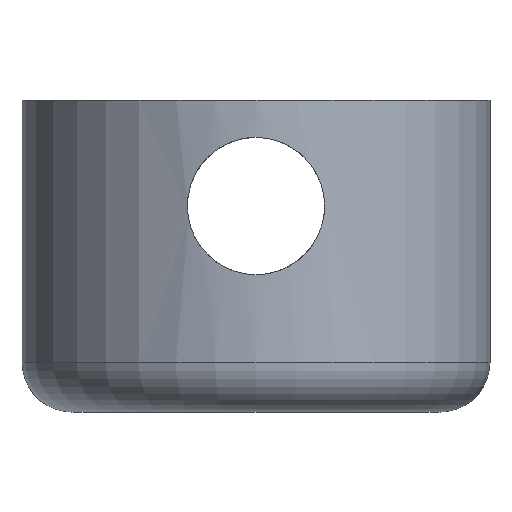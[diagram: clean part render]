
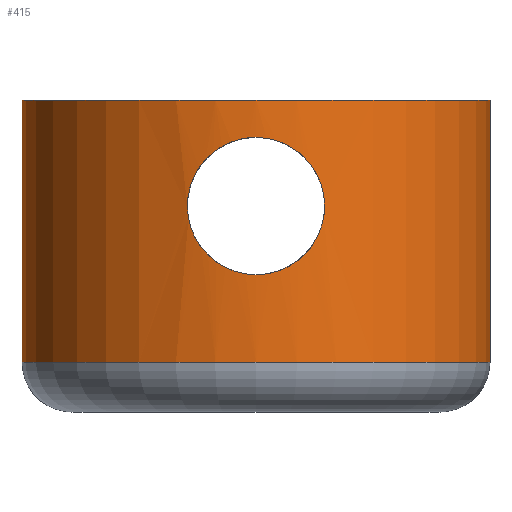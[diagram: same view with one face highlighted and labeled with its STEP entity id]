
A CAD part, front view. The second image highlights one B-rep face of the part: STEP entity #415.
In plain terms, the highlighted cylindrical face has radius 18.75 mm (diameter 37.5 mm), a partial arc.
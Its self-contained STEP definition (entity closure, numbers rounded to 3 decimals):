
#31=CARTESIAN_POINT('',(0.,0.,4.));
#32=DIRECTION('',(0.,0.,-1.));
#33=DIRECTION('',(1.,0.,0.));
#34=AXIS2_PLACEMENT_3D('',#31,#32,#33);
#36=DIRECTION('',(0.,0.,1.));
#37=VECTOR('',#36,21.);
#38=CARTESIAN_POINT('',(-18.75,0.,4.));
#39=LINE('',#38,#37);
#40=CARTESIAN_POINT('',(0.,-18.75,22.));
#41=CARTESIAN_POINT('',(0.337,-18.75,22.));
#42=CARTESIAN_POINT('',(1.002,-18.732,21.939));
#43=CARTESIAN_POINT('',(1.99,-18.652,21.661));
#44=CARTESIAN_POINT('',(2.909,-18.53,21.206));
#45=CARTESIAN_POINT('',(3.74,-18.379,20.577));
#46=CARTESIAN_POINT('',(4.433,-18.222,19.81));
#47=CARTESIAN_POINT('',(4.974,-18.08,18.921));
#48=CARTESIAN_POINT('',(5.332,-17.977,17.971));
#49=CARTESIAN_POINT('',(5.511,-17.922,16.966));
#50=CARTESIAN_POINT('',(5.505,-17.924,15.96));
#51=CARTESIAN_POINT('',(5.311,-17.983,14.954));
#52=CARTESIAN_POINT('',(4.941,-18.089,14.014));
#53=CARTESIAN_POINT('',(4.398,-18.231,13.145));
#54=CARTESIAN_POINT('',(3.714,-18.384,12.402));
#55=CARTESIAN_POINT('',(2.898,-18.532,11.789));
#56=CARTESIAN_POINT('',(1.992,-18.652,11.34));
#57=CARTESIAN_POINT('',(1.003,-18.732,11.061));
#58=CARTESIAN_POINT('',(0.337,-18.75,11.));
#59=CARTESIAN_POINT('',(0.,-18.75,11.));
#61=CARTESIAN_POINT('',(0.,-18.75,11.));
#62=CARTESIAN_POINT('',(-0.339,-18.75,11.));
#63=CARTESIAN_POINT('',(-1.007,-18.732,11.061));
#64=CARTESIAN_POINT('',(-1.999,-18.651,11.342));
#65=CARTESIAN_POINT('',(-2.911,-18.53,11.796));
#66=CARTESIAN_POINT('',(-3.731,-18.38,12.417));
#67=CARTESIAN_POINT('',(-4.417,-18.226,13.17));
#68=CARTESIAN_POINT('',(-4.959,-18.084,14.049));
#69=CARTESIAN_POINT('',(-5.323,-17.979,14.995));
#70=CARTESIAN_POINT('',(-5.509,-17.922,16.005));
#71=CARTESIAN_POINT('',(-5.507,-17.923,17.016));
#72=CARTESIAN_POINT('',(-5.317,-17.981,18.027));
#73=CARTESIAN_POINT('',(-4.949,-18.087,18.97));
#74=CARTESIAN_POINT('',(-4.407,-18.228,19.843));
#75=CARTESIAN_POINT('',(-3.723,-18.382,20.59));
#76=CARTESIAN_POINT('',(-2.907,-18.53,21.206));
#77=CARTESIAN_POINT('',(-1.999,-18.651,21.658));
#78=CARTESIAN_POINT('',(-1.006,-18.732,21.939));
#79=CARTESIAN_POINT('',(-0.339,-18.75,22.));
#80=CARTESIAN_POINT('',(0.,-18.75,22.));
#87=DIRECTION('',(0.,0.,1.));
#88=VECTOR('',#87,21.);
#89=CARTESIAN_POINT('',(18.75,0.,4.));
#90=LINE('',#89,#88);
#138=CARTESIAN_POINT('',(0.,0.,25.));
#139=DIRECTION('',(0.,0.,1.));
#140=DIRECTION('',(-1.,0.,0.));
#141=AXIS2_PLACEMENT_3D('',#138,#139,#140);
#309=CARTESIAN_POINT('',(18.75,0.,25.));
#310=CARTESIAN_POINT('',(-18.75,0.,25.));
#311=VERTEX_POINT('',#309);
#312=VERTEX_POINT('',#310);
#317=CARTESIAN_POINT('',(-18.75,0.,4.));
#318=CARTESIAN_POINT('',(18.75,0.,4.));
#319=VERTEX_POINT('',#317);
#320=VERTEX_POINT('',#318);
#335=VERTEX_POINT('',#40);
#336=VERTEX_POINT('',#59);
#395=CARTESIAN_POINT('',(0.,0.,0.));
#396=DIRECTION('',(0.,0.,1.));
#397=DIRECTION('',(1.,0.,0.));
#398=AXIS2_PLACEMENT_3D('',#395,#396,#397);
#399=CYLINDRICAL_SURFACE('',#398,18.75);
#400=ORIENTED_EDGE('',*,*,#389,.T.);
#402=ORIENTED_EDGE('',*,*,#401,.T.);
#404=ORIENTED_EDGE('',*,*,#403,.T.);
#406=ORIENTED_EDGE('',*,*,#405,.F.);
#407=EDGE_LOOP('',(#400,#402,#404,#406));
#408=FACE_OUTER_BOUND('',#407,.F.);
#410=ORIENTED_EDGE('',*,*,#409,.F.);
#412=ORIENTED_EDGE('',*,*,#411,.F.);
#413=EDGE_LOOP('',(#410,#412));
#414=FACE_BOUND('',#413,.F.);
#415=ADVANCED_FACE('',(#408,#414),#399,.T.);
#35=CIRCLE('',#34,18.75);
#60=B_SPLINE_CURVE_WITH_KNOTS('',3,(#40,#41,#42,#43,#44,#45,#46,#47,#48,#49,#50,
#51,#52,#53,#54,#55,#56,#57,#58,#59),.UNSPECIFIED.,.F.,.F.,(4,1,1,1,1,1,1,1,1,1,
1,1,1,1,1,1,1,4),(0.,0.059,0.118,0.176,
0.235,0.294,0.353,0.412,
0.471,0.529,0.588,0.647,
0.706,0.765,0.824,0.882,
0.941,1.),.UNSPECIFIED.);
#81=B_SPLINE_CURVE_WITH_KNOTS('',3,(#61,#62,#63,#64,#65,#66,#67,#68,#69,#70,#71,
#72,#73,#74,#75,#76,#77,#78,#79,#80),.UNSPECIFIED.,.F.,.F.,(4,1,1,1,1,1,1,1,1,1,
1,1,1,1,1,1,1,4),(0.,0.059,0.118,0.176,
0.235,0.294,0.353,0.412,
0.471,0.529,0.588,0.647,
0.706,0.765,0.824,0.882,
0.941,1.),.UNSPECIFIED.);
#142=CIRCLE('',#141,18.75);
#389=EDGE_CURVE('',#320,#319,#35,.T.);
#401=EDGE_CURVE('',#319,#312,#39,.T.);
#403=EDGE_CURVE('',#312,#311,#142,.T.);
#405=EDGE_CURVE('',#320,#311,#90,.T.);
#409=EDGE_CURVE('',#335,#336,#60,.T.);
#411=EDGE_CURVE('',#336,#335,#81,.T.);
